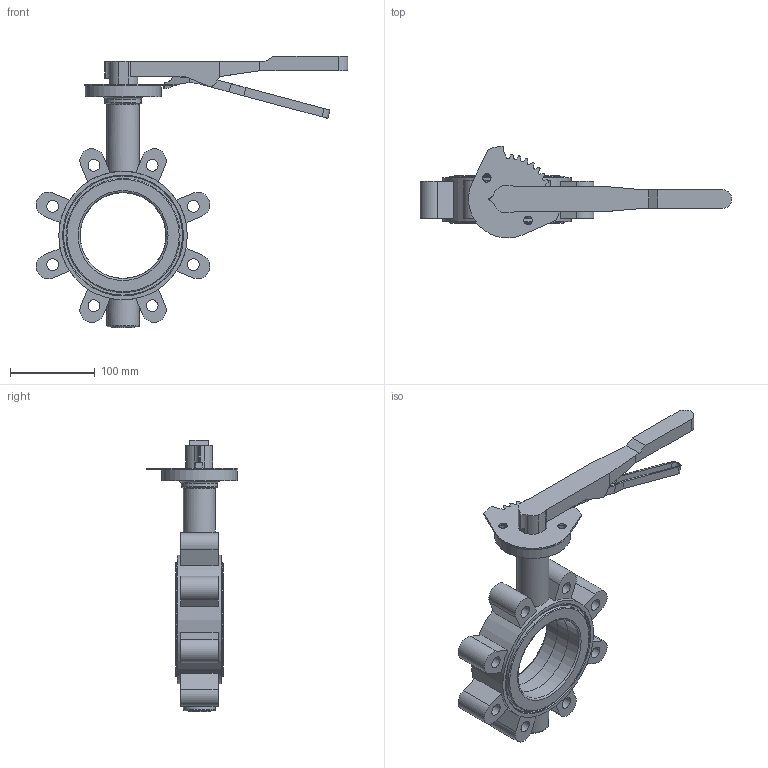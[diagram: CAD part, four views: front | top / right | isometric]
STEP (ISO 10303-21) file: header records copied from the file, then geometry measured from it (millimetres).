
FILE_DESCRIPTION (( 'STEP AP203' ), '1' );
FILE_NAME ('2502 LT型中线衬胶带销 手柄蝶阀 DN100 PN16 CD0309139.STEP', '2026-04-14T00:47:39', ( '' ), ( '' ), 'SwSTEP 2.0', 'SolidWorks 2018', '' );
FILE_SCHEMA (( 'CONFIG_CONTROL_DESIGN' ));
Length unit declared in the file: millimetre
Products named in the file (8): 新型玛钢手柄装配体(带盖)-DN100-DN125-立方孔14-9004; M22X1.5内六角螺塞; 2502 LT型中线衬胶带销 手柄蝶阀 DN100 PN16 CD0309139; 新型玛钢手柄副手柄-DN100-DN125-9004; ｳﾄｽｺ(ﾋｫﾋｮﾏﾟ)-DN100-GALAｳﾄｽｺｵ都ｧ-GALA-D100-04AZC-00; 新型玛钢手柄主手柄-DN100-DN125-立方孔11-9004; 新型玛钢手柄齿盘(不锈钢)-DN100-DN150; GALA-D100-01LCN-00
Assembly tree (7 placements, depth 3):
  2502 LT型中线衬胶带销 手柄蝶阀 DN100 PN16 CD0309139
    M22X1.5内六角螺塞
    GALA-D100-01LCN-00
    ｳﾄｽｺ(ﾋｫﾋｮﾏﾟ)-DN100-GALAｳﾄｽｺｵ都ｧ-GALA-D100-04AZC-00
    新型玛钢手柄装配体(带盖)-DN100-DN125-立方孔14-9004
      新型玛钢手柄主手柄-DN100-DN125-立方孔11-9004
      新型玛钢手柄齿盘(不锈钢)-DN100-DN150
      新型玛钢手柄副手柄-DN100-DN125-9004
Bounding box: 368.61 x 108.6 x 321 mm (x, y, z)
Volume: 1111102.8 mm3; surface area: 260815.9 mm2
Topology: 6 solids, 6 shells, 265 faces, 691 edges, 452 vertices
Faces by surface type: plane 140, cylinder 107, cone 9, torus 9
Full cylindrical faces by diameter (mm): 10 x6, 14 x8, 22 x1, 27 x2, 30 x1, 38 x2, 43 x1, 90 x1, 101.303 x1, 113 x2, 135 x2, 141 x2, 152 x1
Entity records: 8954 total; most frequent: CARTESIAN_POINT 1587, DIRECTION 1403, ORIENTED_EDGE 1278, EDGE_CURVE 639, AXIS2_PLACEMENT_3D 514, VERTEX_POINT 448, VECTOR 375, LINE 375
